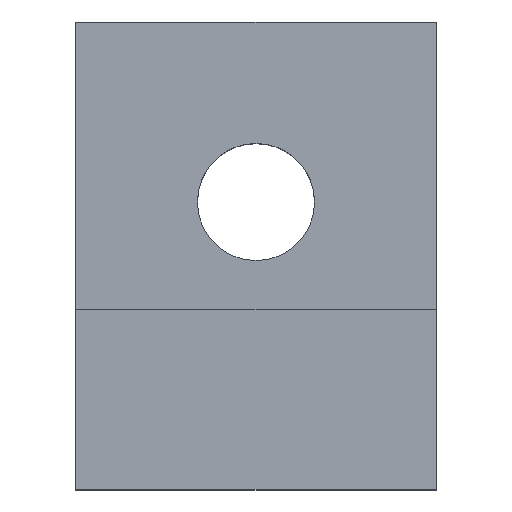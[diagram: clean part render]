
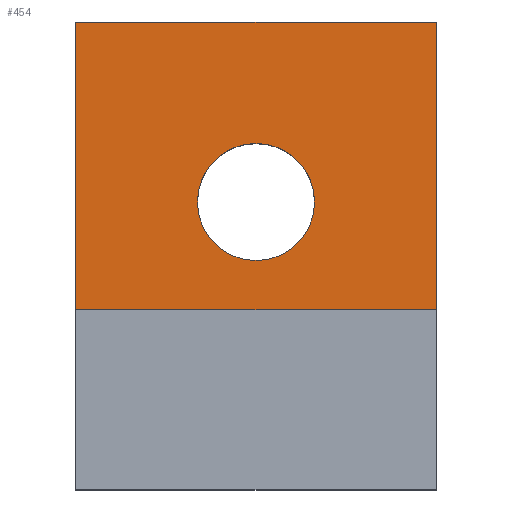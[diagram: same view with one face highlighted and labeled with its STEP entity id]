
A CAD part, top view. The second image highlights one B-rep face of the part: STEP entity #454.
In plain terms, the highlighted planar face has unit normal (0, 0, 1).
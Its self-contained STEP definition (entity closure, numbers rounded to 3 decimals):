
#32 = PLANE('',#33);
#33 = AXIS2_PLACEMENT_3D('',#34,#35,#36);
#34 = CARTESIAN_POINT('',(-10.,40.,16.));
#35 = DIRECTION('',(1.,0.,0.));
#36 = DIRECTION('',(0.,0.,1.));
#85 = VERTEX_POINT('',#86);
#86 = CARTESIAN_POINT('',(-10.,60.,24.));
#100 = PLANE('',#101);
#101 = AXIS2_PLACEMENT_3D('',#102,#103,#104);
#102 = CARTESIAN_POINT('',(-10.,60.,16.));
#103 = DIRECTION('',(0.,1.,0.));
#104 = DIRECTION('',(0.,0.,1.));
#112 = EDGE_CURVE('',#113,#85,#115,.T.);
#113 = VERTEX_POINT('',#114);
#114 = CARTESIAN_POINT('',(-10.,44.,24.));
#115 = SURFACE_CURVE('',#116,(#120,#127),.PCURVE_S1.);
#116 = LINE('',#117,#118);
#117 = CARTESIAN_POINT('',(-10.,40.,24.));
#118 = VECTOR('',#119,1.);
#119 = DIRECTION('',(0.,1.,0.));
#120 = PCURVE('',#32,#121);
#121 = DEFINITIONAL_REPRESENTATION('',(#122),#126);
#122 = LINE('',#123,#124);
#123 = CARTESIAN_POINT('',(8.,0.));
#124 = VECTOR('',#125,1.);
#125 = DIRECTION('',(0.,-1.));
#126 = ( GEOMETRIC_REPRESENTATION_CONTEXT(2) 
PARAMETRIC_REPRESENTATION_CONTEXT() REPRESENTATION_CONTEXT('2D SPACE',''
  ) );
#127 = PCURVE('',#128,#133);
#128 = PLANE('',#129);
#129 = AXIS2_PLACEMENT_3D('',#130,#131,#132);
#130 = CARTESIAN_POINT('',(-10.,40.,24.));
#131 = DIRECTION('',(0.,0.,1.));
#132 = DIRECTION('',(1.,0.,0.));
#133 = DEFINITIONAL_REPRESENTATION('',(#134),#138);
#134 = LINE('',#135,#136);
#135 = CARTESIAN_POINT('',(0.,0.));
#136 = VECTOR('',#137,1.);
#137 = DIRECTION('',(0.,1.));
#138 = ( GEOMETRIC_REPRESENTATION_CONTEXT(2) 
PARAMETRIC_REPRESENTATION_CONTEXT() REPRESENTATION_CONTEXT('2D SPACE',''
  ) );
#156 = PLANE('',#157);
#157 = AXIS2_PLACEMENT_3D('',#158,#159,#160);
#158 = CARTESIAN_POINT('',(-10.,44.,24.));
#159 = DIRECTION('',(0.,1.,0.));
#160 = DIRECTION('',(0.,0.,1.));
#314 = PLANE('',#315);
#315 = AXIS2_PLACEMENT_3D('',#316,#317,#318);
#316 = CARTESIAN_POINT('',(10.,40.,16.));
#317 = DIRECTION('',(1.,0.,0.));
#318 = DIRECTION('',(0.,0.,1.));
#394 = CYLINDRICAL_SURFACE('',#395,3.25);
#395 = AXIS2_PLACEMENT_3D('',#396,#397,#398);
#396 = CARTESIAN_POINT('',(0.,50.,16.));
#397 = DIRECTION('',(-0.,-0.,-1.));
#398 = DIRECTION('',(1.,0.,0.));
#411 = EDGE_CURVE('',#85,#412,#414,.T.);
#412 = VERTEX_POINT('',#413);
#413 = CARTESIAN_POINT('',(10.,60.,24.));
#414 = SURFACE_CURVE('',#415,(#419,#426),.PCURVE_S1.);
#415 = LINE('',#416,#417);
#416 = CARTESIAN_POINT('',(-10.,60.,24.));
#417 = VECTOR('',#418,1.);
#418 = DIRECTION('',(1.,0.,0.));
#419 = PCURVE('',#100,#420);
#420 = DEFINITIONAL_REPRESENTATION('',(#421),#425);
#421 = LINE('',#422,#423);
#422 = CARTESIAN_POINT('',(8.,0.));
#423 = VECTOR('',#424,1.);
#424 = DIRECTION('',(0.,1.));
#425 = ( GEOMETRIC_REPRESENTATION_CONTEXT(2) 
PARAMETRIC_REPRESENTATION_CONTEXT() REPRESENTATION_CONTEXT('2D SPACE',''
  ) );
#426 = PCURVE('',#128,#427);
#427 = DEFINITIONAL_REPRESENTATION('',(#428),#432);
#428 = LINE('',#429,#430);
#429 = CARTESIAN_POINT('',(0.,20.));
#430 = VECTOR('',#431,1.);
#431 = DIRECTION('',(1.,0.));
#432 = ( GEOMETRIC_REPRESENTATION_CONTEXT(2) 
PARAMETRIC_REPRESENTATION_CONTEXT() REPRESENTATION_CONTEXT('2D SPACE',''
  ) );
#454 = ADVANCED_FACE('',(#455,#503),#128,.T.);
#455 = FACE_BOUND('',#456,.T.);
#456 = EDGE_LOOP('',(#457,#458,#481,#502));
#457 = ORIENTED_EDGE('',*,*,#112,.F.);
#458 = ORIENTED_EDGE('',*,*,#459,.T.);
#459 = EDGE_CURVE('',#113,#460,#462,.T.);
#460 = VERTEX_POINT('',#461);
#461 = CARTESIAN_POINT('',(10.,44.,24.));
#462 = SURFACE_CURVE('',#463,(#467,#474),.PCURVE_S1.);
#463 = LINE('',#464,#465);
#464 = CARTESIAN_POINT('',(-10.,44.,24.));
#465 = VECTOR('',#466,1.);
#466 = DIRECTION('',(1.,0.,0.));
#467 = PCURVE('',#128,#468);
#468 = DEFINITIONAL_REPRESENTATION('',(#469),#473);
#469 = LINE('',#470,#471);
#470 = CARTESIAN_POINT('',(0.,4.));
#471 = VECTOR('',#472,1.);
#472 = DIRECTION('',(1.,0.));
#473 = ( GEOMETRIC_REPRESENTATION_CONTEXT(2) 
PARAMETRIC_REPRESENTATION_CONTEXT() REPRESENTATION_CONTEXT('2D SPACE',''
  ) );
#474 = PCURVE('',#156,#475);
#475 = DEFINITIONAL_REPRESENTATION('',(#476),#480);
#476 = LINE('',#477,#478);
#477 = CARTESIAN_POINT('',(0.,0.));
#478 = VECTOR('',#479,1.);
#479 = DIRECTION('',(0.,1.));
#480 = ( GEOMETRIC_REPRESENTATION_CONTEXT(2) 
PARAMETRIC_REPRESENTATION_CONTEXT() REPRESENTATION_CONTEXT('2D SPACE',''
  ) );
#481 = ORIENTED_EDGE('',*,*,#482,.T.);
#482 = EDGE_CURVE('',#460,#412,#483,.T.);
#483 = SURFACE_CURVE('',#484,(#488,#495),.PCURVE_S1.);
#484 = LINE('',#485,#486);
#485 = CARTESIAN_POINT('',(10.,40.,24.));
#486 = VECTOR('',#487,1.);
#487 = DIRECTION('',(0.,1.,0.));
#488 = PCURVE('',#128,#489);
#489 = DEFINITIONAL_REPRESENTATION('',(#490),#494);
#490 = LINE('',#491,#492);
#491 = CARTESIAN_POINT('',(20.,0.));
#492 = VECTOR('',#493,1.);
#493 = DIRECTION('',(0.,1.));
#494 = ( GEOMETRIC_REPRESENTATION_CONTEXT(2) 
PARAMETRIC_REPRESENTATION_CONTEXT() REPRESENTATION_CONTEXT('2D SPACE',''
  ) );
#495 = PCURVE('',#314,#496);
#496 = DEFINITIONAL_REPRESENTATION('',(#497),#501);
#497 = LINE('',#498,#499);
#498 = CARTESIAN_POINT('',(8.,0.));
#499 = VECTOR('',#500,1.);
#500 = DIRECTION('',(0.,-1.));
#501 = ( GEOMETRIC_REPRESENTATION_CONTEXT(2) 
PARAMETRIC_REPRESENTATION_CONTEXT() REPRESENTATION_CONTEXT('2D SPACE',''
  ) );
#502 = ORIENTED_EDGE('',*,*,#411,.F.);
#503 = FACE_BOUND('',#504,.T.);
#504 = EDGE_LOOP('',(#505));
#505 = ORIENTED_EDGE('',*,*,#506,.T.);
#506 = EDGE_CURVE('',#507,#507,#509,.T.);
#507 = VERTEX_POINT('',#508);
#508 = CARTESIAN_POINT('',(3.25,50.,24.));
#509 = SURFACE_CURVE('',#510,(#515,#526),.PCURVE_S1.);
#510 = CIRCLE('',#511,3.25);
#511 = AXIS2_PLACEMENT_3D('',#512,#513,#514);
#512 = CARTESIAN_POINT('',(0.,50.,24.));
#513 = DIRECTION('',(0.,0.,-1.));
#514 = DIRECTION('',(1.,0.,0.));
#515 = PCURVE('',#128,#516);
#516 = DEFINITIONAL_REPRESENTATION('',(#517),#525);
#517 = ( BOUNDED_CURVE() B_SPLINE_CURVE(2,(#518,#519,#520,#521,#522,#523
,#524),.UNSPECIFIED.,.T.,.F.) B_SPLINE_CURVE_WITH_KNOTS((1,2,2,2,2,1),(
    -2.094,0.,2.094,4.189,6.283,
8.378),.UNSPECIFIED.) CURVE() GEOMETRIC_REPRESENTATION_ITEM() 
RATIONAL_B_SPLINE_CURVE((1.,0.5,1.,0.5,1.,0.5,1.)) REPRESENTATION_ITEM(
  '') );
#518 = CARTESIAN_POINT('',(13.25,10.));
#519 = CARTESIAN_POINT('',(13.25,4.371));
#520 = CARTESIAN_POINT('',(8.375,7.185));
#521 = CARTESIAN_POINT('',(3.5,10.));
#522 = CARTESIAN_POINT('',(8.375,12.815));
#523 = CARTESIAN_POINT('',(13.25,15.629));
#524 = CARTESIAN_POINT('',(13.25,10.));
#525 = ( GEOMETRIC_REPRESENTATION_CONTEXT(2) 
PARAMETRIC_REPRESENTATION_CONTEXT() REPRESENTATION_CONTEXT('2D SPACE',''
  ) );
#526 = PCURVE('',#394,#527);
#527 = DEFINITIONAL_REPRESENTATION('',(#528),#532);
#528 = LINE('',#529,#530);
#529 = CARTESIAN_POINT('',(-6.283,-8.));
#530 = VECTOR('',#531,1.);
#531 = DIRECTION('',(1.,-0.));
#532 = ( GEOMETRIC_REPRESENTATION_CONTEXT(2) 
PARAMETRIC_REPRESENTATION_CONTEXT() REPRESENTATION_CONTEXT('2D SPACE',''
  ) );
